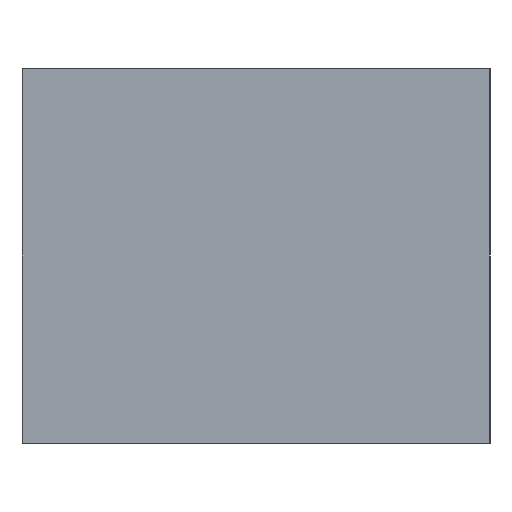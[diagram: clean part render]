
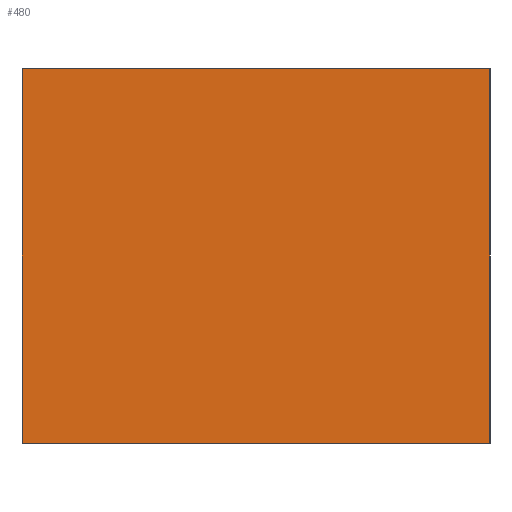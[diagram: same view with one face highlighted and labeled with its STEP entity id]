
A CAD part, left-side view. The second image highlights one B-rep face of the part: STEP entity #480.
In plain terms, the highlighted planar face has unit normal (-1, 0, 0).
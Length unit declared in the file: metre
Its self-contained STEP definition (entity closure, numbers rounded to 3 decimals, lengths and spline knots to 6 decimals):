
#21=DIRECTION('',(0.,0.,1.));
#22=VECTOR('',#21,0.024);
#23=CARTESIAN_POINT('',(-0.0225,0.015,-0.024));
#24=LINE('',#23,#22);
#293=DIRECTION('',(0.,-1.,0.));
#294=VECTOR('',#293,0.03);
#295=CARTESIAN_POINT('',(-0.0225,0.015,0.));
#296=LINE('',#295,#294);
#321=DIRECTION('',(0.,0.,-1.));
#322=VECTOR('',#321,0.024);
#323=CARTESIAN_POINT('',(-0.0225,-0.015,0.));
#324=LINE('',#323,#322);
#353=DIRECTION('',(0.,1.,0.));
#354=VECTOR('',#353,0.03);
#355=CARTESIAN_POINT('',(-0.0225,-0.015,-0.024));
#356=LINE('',#355,#354);
#357=CARTESIAN_POINT('',(-0.0225,0.015,0.));
#358=CARTESIAN_POINT('',(-0.0225,-0.015,0.));
#359=VERTEX_POINT('',#357);
#360=VERTEX_POINT('',#358);
#361=CARTESIAN_POINT('',(-0.0225,-0.015,-0.024));
#362=VERTEX_POINT('',#361);
#363=CARTESIAN_POINT('',(-0.0225,0.015,-0.024));
#364=VERTEX_POINT('',#363);
#465=CARTESIAN_POINT('',(-0.0225,0.015,-0.023));
#466=DIRECTION('',(-1.,0.,0.));
#467=DIRECTION('',(0.,-1.,0.));
#468=AXIS2_PLACEMENT_3D('',#465,#466,#467);
#469=PLANE('',#468);
#471=ORIENTED_EDGE('',*,*,#470,.T.);
#473=ORIENTED_EDGE('',*,*,#472,.T.);
#475=ORIENTED_EDGE('',*,*,#474,.T.);
#477=ORIENTED_EDGE('',*,*,#476,.T.);
#478=EDGE_LOOP('',(#471,#473,#475,#477));
#479=FACE_OUTER_BOUND('',#478,.F.);
#480=ADVANCED_FACE('',(#479),#469,.T.);
#470=EDGE_CURVE('',#364,#359,#24,.T.);
#472=EDGE_CURVE('',#359,#360,#296,.T.);
#474=EDGE_CURVE('',#360,#362,#324,.T.);
#476=EDGE_CURVE('',#362,#364,#356,.T.);
